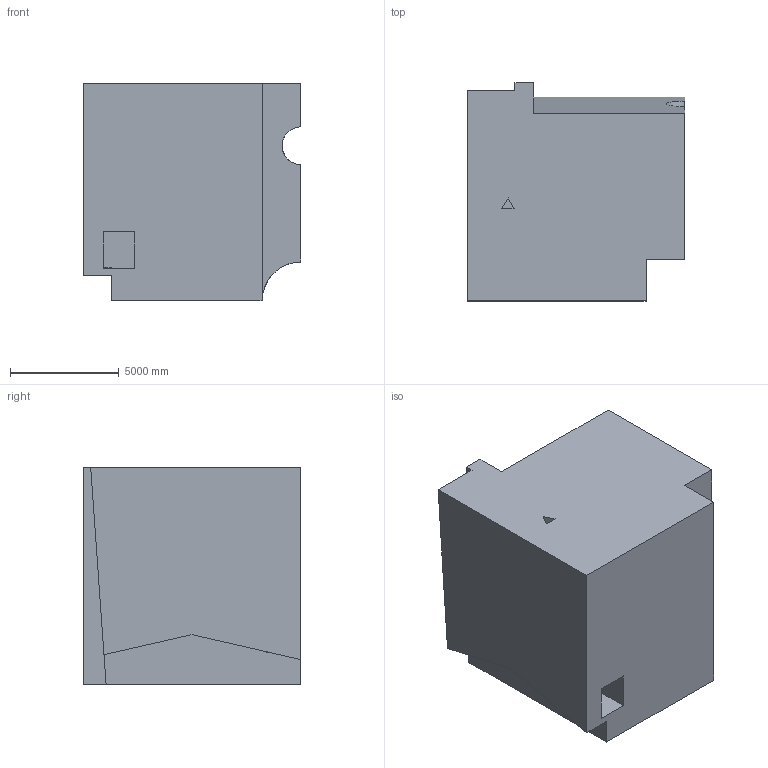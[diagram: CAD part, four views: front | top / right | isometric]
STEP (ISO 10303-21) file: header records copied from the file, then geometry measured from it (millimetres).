
FILE_DESCRIPTION (( 'STEP AP203' ), '1' );
FILE_NAME ('92.STEP', '2022-09-02T15:26:41', ( 'user' ), ( '' ), 'SwSTEP 2.0', 'SolidWorks 2021', '' );
FILE_SCHEMA (( 'CONFIG_CONTROL_DESIGN' ));
Length unit declared in the file: centimetre
Products named in the file (1): 92
Bounding box: 10000 x 10000 x 10000 mm (x, y, z)
Volume: 816950120799.5 mm3; surface area: 615705175.7 mm2
Topology: 1 solids, 1 shells, 35 faces, 96 edges, 64 vertices
Faces by surface type: plane 31, cylinder 4
Entity records: 1296 total; most frequent: CARTESIAN_POINT 324, ORIENTED_EDGE 192, DIRECTION 171, EDGE_CURVE 96, VECTOR 85, LINE 85, VERTEX_POINT 64, AXIS2_PLACEMENT_3D 43
